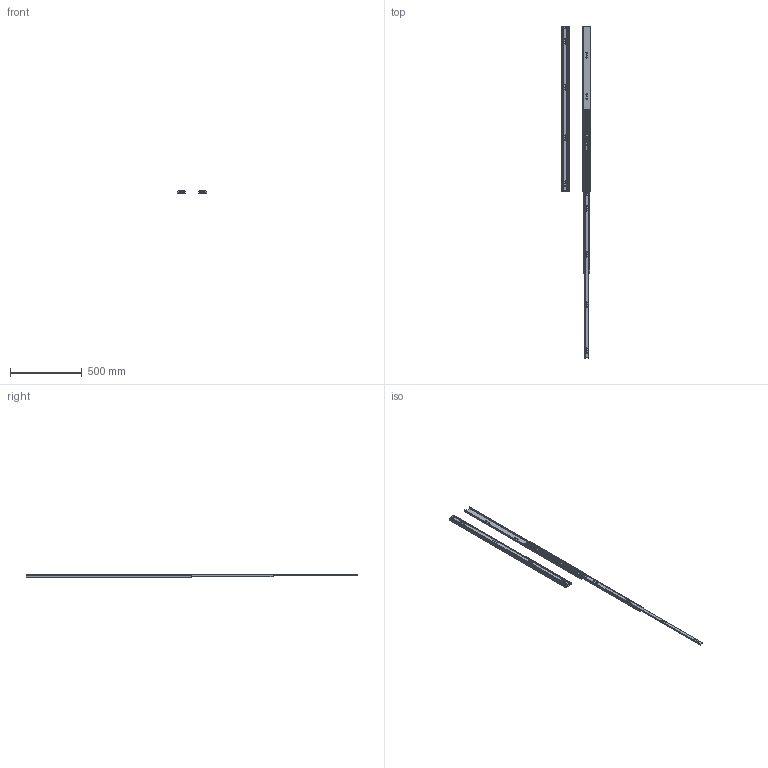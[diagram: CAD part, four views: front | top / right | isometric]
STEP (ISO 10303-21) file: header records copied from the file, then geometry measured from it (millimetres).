
FILE_DESCRIPTION( ( 'Unknown' ), '1' );
FILE_NAME( 'C:/Users/T170313/Desktop/76008-1050~1200/76008-1150/76008-1150(閉合+展長).stp', 'Unknown', ( 'Unknown' ), ( 'Unknown' ), 'PSStep 14.0', 'Unknown', ' ' );
FILE_SCHEMA( ( 'AUTOMOTIVE_DESIGN { 1 0 10303 214 1 1 1 1 }' ) );
Length unit declared in the file: millimetre
Products named in the file (6): 76008-1150; 外框-1150; 中框-1150; 內框-1150; 76008-1150-\X2\5C55957\X0\; Assem1
Assembly tree (8 placements, depth 3):
  Assem1
    76008-1150
      外框-1150
      中框-1150
      內框-1150
    76008-1150-\X2\5C55957\X0\
      外框-1150
      中框-1150
      內框-1150
Bounding box: 202.13 x 2311.85 x 19 mm (x, y, z)
Volume: 822758.3 mm3; surface area: 857519.5 mm2
Topology: 6 solids, 6 shells, 856 faces, 2582 edges, 1722 vertices
Faces by surface type: plane 380, cylinder 348, cone 128
Full cylindrical faces by diameter (mm): 5 x20
Entity records: 18526 total; most frequent: CARTESIAN_POINT 3187, ORIENTED_EDGE 2560, DIRECTION 2426, EDGE_CURVE 1280, AXIS2_PLACEMENT_3D 867, VERTEX_POINT 860, LINE 692, VECTOR 692
